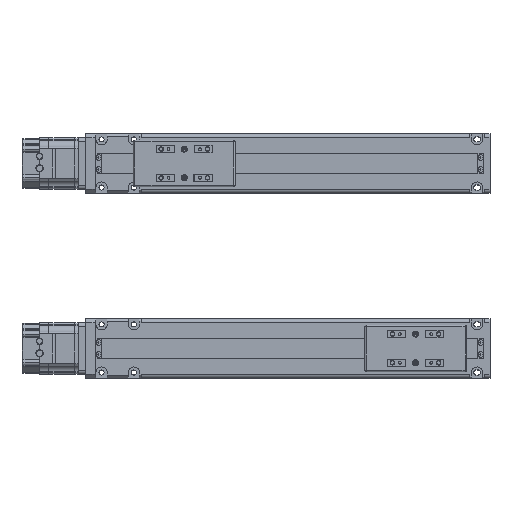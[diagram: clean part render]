
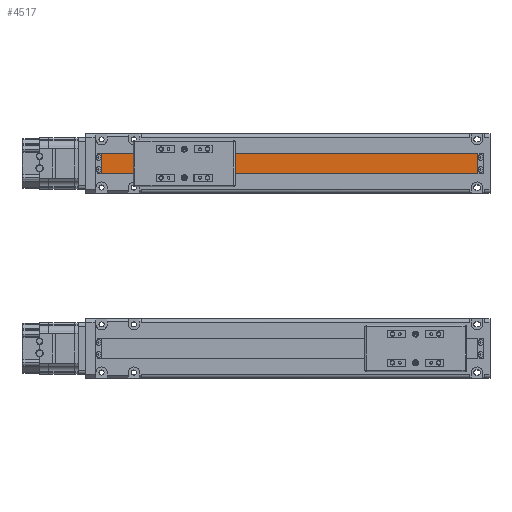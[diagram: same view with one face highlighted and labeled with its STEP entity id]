
A CAD part, top view. The second image highlights one B-rep face of the part: STEP entity #4517.
In plain terms, the highlighted planar face has unit normal (0, 0, 1).
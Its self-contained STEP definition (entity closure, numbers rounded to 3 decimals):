
#4517=ADVANCED_FACE('',(#9391),#9392,.T.);
#9391=FACE_OUTER_BOUND('',#16466,.T.);
#9392=PLANE('',#16467);
#16466=EDGE_LOOP('',(#29894,#29895,#29896,#29897));
#16467=AXIS2_PLACEMENT_3D('',#29898,#29899,#29900);
#29894=ORIENTED_EDGE('',*,*,#34931,.T.);
#29895=ORIENTED_EDGE('',*,*,#37047,.T.);
#29896=ORIENTED_EDGE('',*,*,#38477,.T.);
#29897=ORIENTED_EDGE('',*,*,#35577,.T.);
#29898=CARTESIAN_POINT('',(784.528,108.8,13.05));
#29899=DIRECTION('',(-0.0,0.,1.0));
#29900=DIRECTION('',(1.0,0.0,0.0));
#34931=EDGE_CURVE('',#42256,#42254,#42257,.T.);
#35577=EDGE_CURVE('',#43300,#42256,#43301,.T.);
#37047=EDGE_CURVE('',#42254,#45457,#45458,.T.);
#38477=EDGE_CURVE('',#45457,#43300,#47230,.T.);
#42254=VERTEX_POINT('',#52373);
#42256=VERTEX_POINT('',#52376);
#42257=LINE('',#52377,#52378);
#43300=VERTEX_POINT('',#53855);
#43301=LINE('',#53856,#53857);
#45457=VERTEX_POINT('',#56949);
#45458=LINE('',#56950,#56951);
#47230=LINE('',#59459,#59460);
#52373=CARTESIAN_POINT('',(749.528,119.8,13.05));
#52376=CARTESIAN_POINT('',(1156.528,119.8,13.05));
#52377=CARTESIAN_POINT('',(1162.528,119.8,13.05));
#52378=VECTOR('',#62527,1000.0);
#53855=CARTESIAN_POINT('',(1156.528,97.8,13.05));
#53856=CARTESIAN_POINT('',(1156.528,108.8,13.05));
#53857=VECTOR('',#63288,1000.0);
#56949=CARTESIAN_POINT('',(749.528,97.8,13.05));
#56950=CARTESIAN_POINT('',(749.528,108.8,13.05));
#56951=VECTOR('',#64977,1000.0);
#59459=CARTESIAN_POINT('',(744.528,97.8,13.05));
#59460=VECTOR('',#66457,1000.0);
#62527=DIRECTION('',(-1.0,0.0,0.0));
#63288=DIRECTION('',(0.0,1.0,0.));
#64977=DIRECTION('',(0.0,-1.0,0.));
#66457=DIRECTION('',(1.0,0.0,0.0));
